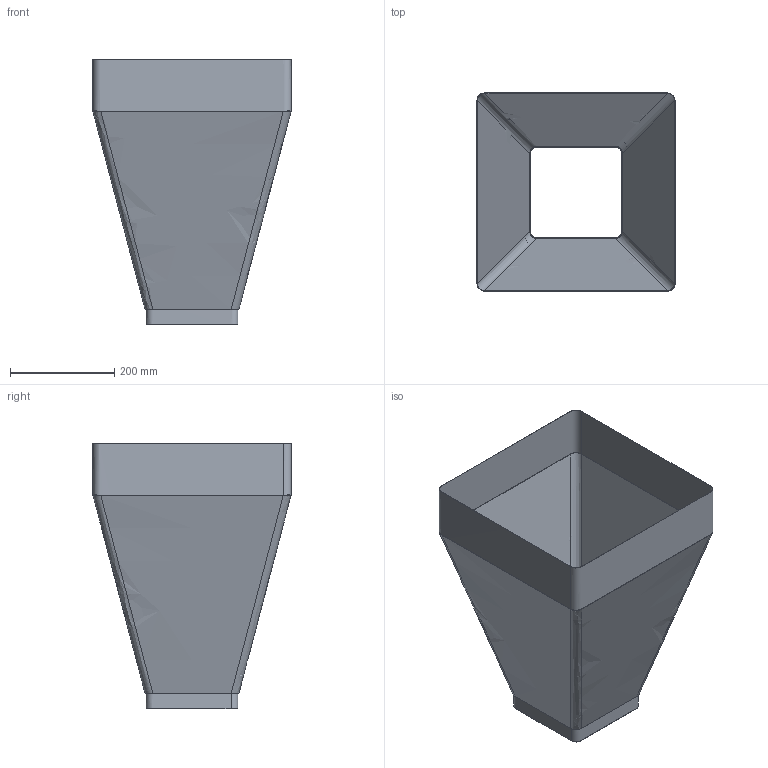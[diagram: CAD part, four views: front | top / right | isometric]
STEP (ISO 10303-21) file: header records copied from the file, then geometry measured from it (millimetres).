
FILE_DESCRIPTION(/* description */ (''),/* implementation_level */ '2;1');
FILE_NAME(/* name */ 'Воронка',/* time_stamp */ '2025-12-09T13:27:01+03:00',/* author */ (''),/* organization */ (''),/* preprocessor_version */ 'ST-DEVELOPER v16.5',/* originating_system */ 'Rhino 7.13',/* authorisation */ '');
FILE_SCHEMA (('CONFIG_CONTROL_DESIGN','CONFIG_CONTROL_DESIGN'));
Length unit declared in the file: millimetre
Products named in the file (1): Document
Bounding box: 380 x 380 x 510 mm (x, y, z)
Volume: 765029.4 mm3; surface area: 1199451.3 mm2
Topology: 3 solids, 3 shells, 42 faces, 90 edges, 48 vertices
Faces by surface type: bspline 34, plane 8
Entity records: 1854 total; most frequent: CARTESIAN_POINT 1284, ORIENTED_EDGE 180, EDGE_CURVE 90, VERTEX_POINT 48, ADVANCED_FACE 42, FACE_OUTER_BOUND 42, EDGE_LOOP 42, DIRECTION 12
